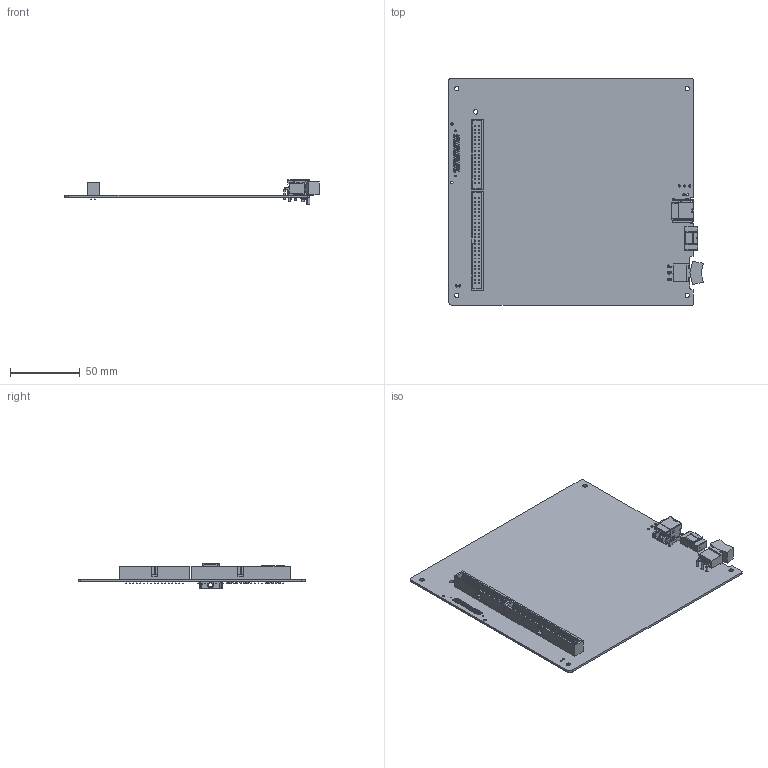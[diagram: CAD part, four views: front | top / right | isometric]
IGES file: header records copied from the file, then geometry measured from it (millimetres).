
Start section:  PTC IGES file: cu_usb_6356_6366_oem.igs
Global section: file name: cu_usb_6356_6366_oem.igs; native system: Pro/ENGINEER by Parametric Technology Corporation; preprocessor: 2010230; author: dkendric; organization: Unknown; date: 20120419.145735; units: inch
Bounding box: 182.3 x 162.56 x 18.36 mm (x, y, z)
Surface area: 70274.5 mm2 (no closed solid volume)
Topology: 0 solids, 0 shells, 2666 faces, 14643 edges, 14601 vertices
Faces by surface type: bspline 1928, revolution 736, extrusion 2
